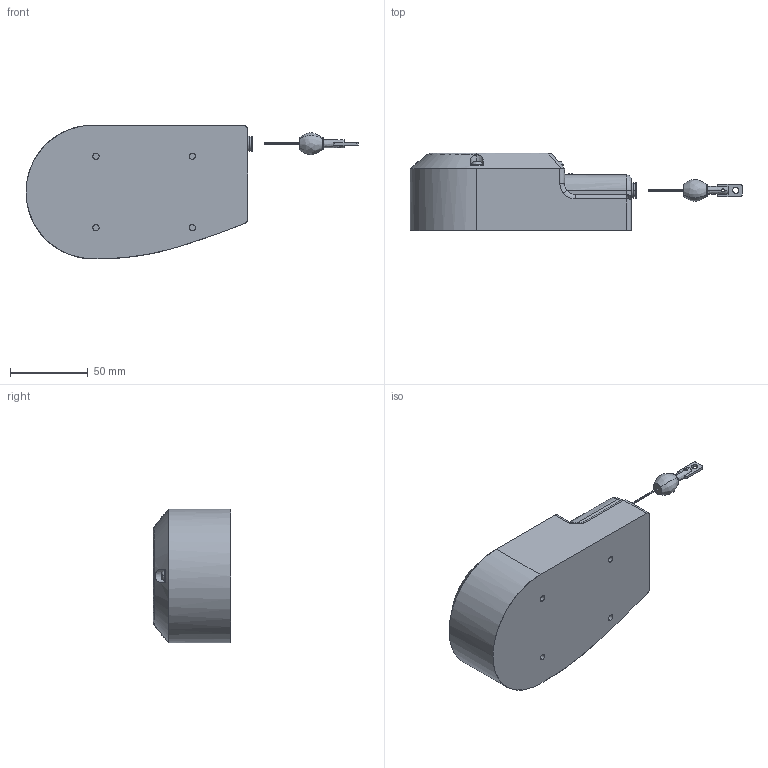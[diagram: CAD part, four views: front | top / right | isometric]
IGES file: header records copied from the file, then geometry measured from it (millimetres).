
Start section: SolidWorks IGES file using analytic representation for surfaces
Bounding box: 213.55 x 50 x 86.05 mm (x, y, z)
Surface area: 41877.4 mm2 (no closed solid volume)
Topology: 0 solids, 0 shells, 230 faces, 3716 edges, 3716 vertices
Faces by surface type: bspline 138, revolution 92
